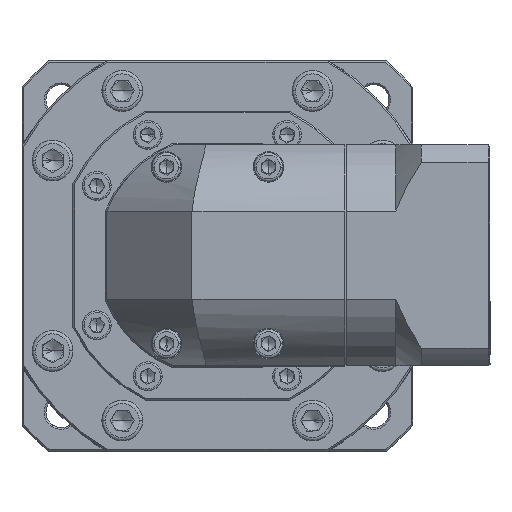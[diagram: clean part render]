
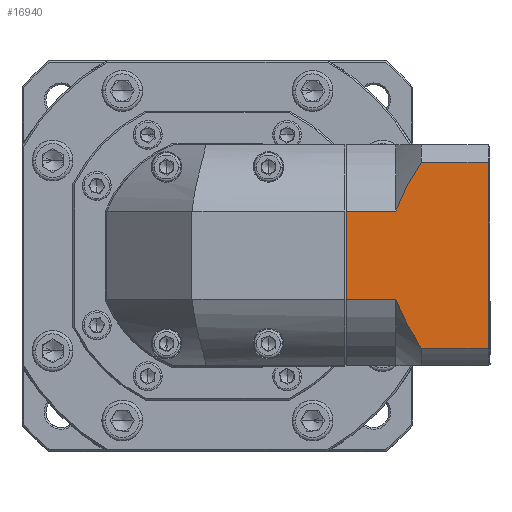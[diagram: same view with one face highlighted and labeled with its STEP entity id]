
A CAD part, top view. The second image highlights one B-rep face of the part: STEP entity #16940.
In plain terms, the highlighted planar face has unit normal (0, 0, 1).
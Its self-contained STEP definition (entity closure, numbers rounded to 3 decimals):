
#1528 = ORIENTED_EDGE ( 'NONE', *, *, #133690, .F. ) ;
#1611 = VECTOR ( 'NONE', #108947, 1000. ) ;
#3462 = EDGE_CURVE ( 'NONE', #25043, #25758, #13353, .T. ) ;
#4371 = DIRECTION ( 'NONE',  ( 1., 0., 0. ) ) ;
#10238 = ORIENTED_EDGE ( 'NONE', *, *, #89235, .T. ) ;
#13353 = B_SPLINE_CURVE_WITH_KNOTS ( 'NONE', 3,
 ( #52972, #41944, #77360, #99819, #64926, #111236, #144613, #54456, #134086, #79798 ),
 .UNSPECIFIED., .F., .F.,
 ( 4, 2, 2, 2, 4 ),
 ( 0.101, 0.103, 0.105, 0.109, 0.117 ),
 .UNSPECIFIED. ) ;
#16594 = CARTESIAN_POINT ( 'NONE',  ( 105.91, 134.247, 34.127 ) ) ;
#16940 = ADVANCED_FACE ( 'NONE', ( #26502 ), #130348, .F. ) ;
#22599 = DIRECTION ( 'NONE',  ( 0., 1., 0. ) ) ;
#24892 = DIRECTION ( 'NONE',  ( -1., 0., 0. ) ) ;
#25043 = VERTEX_POINT ( 'NONE', #100113 ) ;
#25758 = VERTEX_POINT ( 'NONE', #53398 ) ;
#26502 = FACE_OUTER_BOUND ( 'NONE', #77364, .T. ) ;
#26908 = ORIENTED_EDGE ( 'NONE', *, *, #142284, .T. ) ;
#31227 = B_SPLINE_CURVE_WITH_KNOTS ( 'NONE', 3,
 ( #84912, #72026, #50529, #130208, #62489, #62027, #16594, #94942 ),
 .UNSPECIFIED., .F., .F.,
 ( 4, 2, 2, 4 ),
 ( 0.058, 0.062, 0.066, 0.074 ),
 .UNSPECIFIED. ) ;
#35285 = VECTOR ( 'NONE', #111439, 1000. ) ;
#35417 = VERTEX_POINT ( 'NONE', #49419 ) ;
#41645 = CARTESIAN_POINT ( 'NONE',  ( 104.968, 131.709, 34.127 ) ) ;
#41944 = CARTESIAN_POINT ( 'NONE',  ( 105.206, 105.086, 34.127 ) ) ;
#42813 = ORIENTED_EDGE ( 'NONE', *, *, #3462, .T. ) ;
#44425 = CARTESIAN_POINT ( 'NONE',  ( 132.168, 91.333, 34.127 ) ) ;
#48376 = CARTESIAN_POINT ( 'NONE',  ( 104.968, 105.728, 34.127 ) ) ;
#49419 = CARTESIAN_POINT ( 'NONE',  ( 104.968, 131.709, 34.127 ) ) ;
#50529 = CARTESIAN_POINT ( 'NONE',  ( 111.019, 143.816, 34.127 ) ) ;
#51222 = CARTESIAN_POINT ( 'NONE',  ( 90.468, 131.709, 34.127 ) ) ;
#52972 = CARTESIAN_POINT ( 'NONE',  ( 104.968, 105.728, 34.127 ) ) ;
#53398 = CARTESIAN_POINT ( 'NONE',  ( 112.468, 91.333, 34.127 ) ) ;
#54456 = CARTESIAN_POINT ( 'NONE',  ( 109.618, 95.915, 34.127 ) ) ;
#62027 = CARTESIAN_POINT ( 'NONE',  ( 107.054, 136.699, 34.127 ) ) ;
#62458 = CARTESIAN_POINT ( 'NONE',  ( 112.468, 146.105, 34.127 ) ) ;
#62489 = CARTESIAN_POINT ( 'NONE',  ( 108.964, 140.295, 34.127 ) ) ;
#64926 = CARTESIAN_POINT ( 'NONE',  ( 106.258, 102.562, 34.127 ) ) ;
#65799 = LINE ( 'NONE', #41645, #35285 ) ;
#67858 = LINE ( 'NONE', #119052, #137296 ) ;
#72026 = CARTESIAN_POINT ( 'NONE',  ( 111.734, 144.967, 34.127 ) ) ;
#72465 = VECTOR ( 'NONE', #4371, 1000. ) ;
#76900 = CARTESIAN_POINT ( 'NONE',  ( 90.468, 105.728, 34.127 ) ) ;
#77360 = CARTESIAN_POINT ( 'NONE',  ( 105.458, 104.447, 34.127 ) ) ;
#77364 = EDGE_LOOP ( 'NONE', ( #143875, #104643, #106993, #26908, #79723, #10238, #1528, #42813 ) ) ;
#79723 = ORIENTED_EDGE ( 'NONE', *, *, #99239, .F. ) ;
#79798 = CARTESIAN_POINT ( 'NONE',  ( 112.468, 91.333, 34.127 ) ) ;
#84073 = DIRECTION ( 'NONE',  ( 1., 0., 0. ) ) ;
#84880 = VERTEX_POINT ( 'NONE', #44425 ) ;
#84912 = CARTESIAN_POINT ( 'NONE',  ( 112.468, 146.105, 34.127 ) ) ;
#85040 = DIRECTION ( 'NONE',  ( 0., 0., -1. ) ) ;
#89235 = EDGE_CURVE ( 'NONE', #146435, #121018, #67858, .T. ) ;
#94798 = VECTOR ( 'NONE', #24892, 1000. ) ;
#94942 = CARTESIAN_POINT ( 'NONE',  ( 104.968, 131.709, 34.127 ) ) ;
#96282 = VERTEX_POINT ( 'NONE', #62458 ) ;
#99239 = EDGE_CURVE ( 'NONE', #146435, #35417, #65799, .T. ) ;
#99819 = CARTESIAN_POINT ( 'NONE',  ( 105.984, 103.186, 34.127 ) ) ;
#100113 = CARTESIAN_POINT ( 'NONE',  ( 104.968, 105.728, 34.127 ) ) ;
#104643 = ORIENTED_EDGE ( 'NONE', *, *, #143974, .T. ) ;
#106993 = ORIENTED_EDGE ( 'NONE', *, *, #132166, .F. ) ;
#108239 = CARTESIAN_POINT ( 'NONE',  ( 132.168, 146.105, 34.127 ) ) ;
#108947 = DIRECTION ( 'NONE',  ( -1., 0., 0. ) ) ;
#109061 = CARTESIAN_POINT ( 'NONE',  ( 132.168, 151.219, 34.127 ) ) ;
#111032 = LINE ( 'NONE', #109061, #116355 ) ;
#111236 = CARTESIAN_POINT ( 'NONE',  ( 107.108, 100.708, 34.127 ) ) ;
#111439 = DIRECTION ( 'NONE',  ( 1., 0., 0. ) ) ;
#115717 = LINE ( 'NONE', #144297, #1611 ) ;
#116355 = VECTOR ( 'NONE', #22599, 1000. ) ;
#118995 = CARTESIAN_POINT ( 'NONE',  ( 104.968, 146.105, 34.127 ) ) ;
#119052 = CARTESIAN_POINT ( 'NONE',  ( 90.468, 151.219, 34.127 ) ) ;
#121018 = VERTEX_POINT ( 'NONE', #76900 ) ;
#121026 = DIRECTION ( 'NONE',  ( 0., -1., 0. ) ) ;
#122263 = VERTEX_POINT ( 'NONE', #108239 ) ;
#128468 = EDGE_CURVE ( 'NONE', #84880, #25758, #115717, .T. ) ;
#130208 = CARTESIAN_POINT ( 'NONE',  ( 109.635, 141.481, 34.127 ) ) ;
#130348 = PLANE ( 'NONE',  #140331 ) ;
#132166 = EDGE_CURVE ( 'NONE', #96282, #122263, #147310, .T. ) ;
#133690 = EDGE_CURVE ( 'NONE', #25043, #121018, #139346, .T. ) ;
#134086 = CARTESIAN_POINT ( 'NONE',  ( 111.006, 93.601, 34.127 ) ) ;
#137296 = VECTOR ( 'NONE', #121026, 1000. ) ;
#139346 = LINE ( 'NONE', #48376, #94798 ) ;
#140331 = AXIS2_PLACEMENT_3D ( 'NONE', #141860, #85040, #84073 ) ;
#141860 = CARTESIAN_POINT ( 'NONE',  ( 132.668, 151.219, 34.127 ) ) ;
#142284 = EDGE_CURVE ( 'NONE', #96282, #35417, #31227, .T. ) ;
#143875 = ORIENTED_EDGE ( 'NONE', *, *, #128468, .F. ) ;
#143974 = EDGE_CURVE ( 'NONE', #84880, #122263, #111032, .T. ) ;
#144297 = CARTESIAN_POINT ( 'NONE',  ( 104.968, 91.333, 34.127 ) ) ;
#144613 = CARTESIAN_POINT ( 'NONE',  ( 107.713, 99.496, 34.127 ) ) ;
#146435 = VERTEX_POINT ( 'NONE', #51222 ) ;
#147310 = LINE ( 'NONE', #118995, #72465 ) ;
